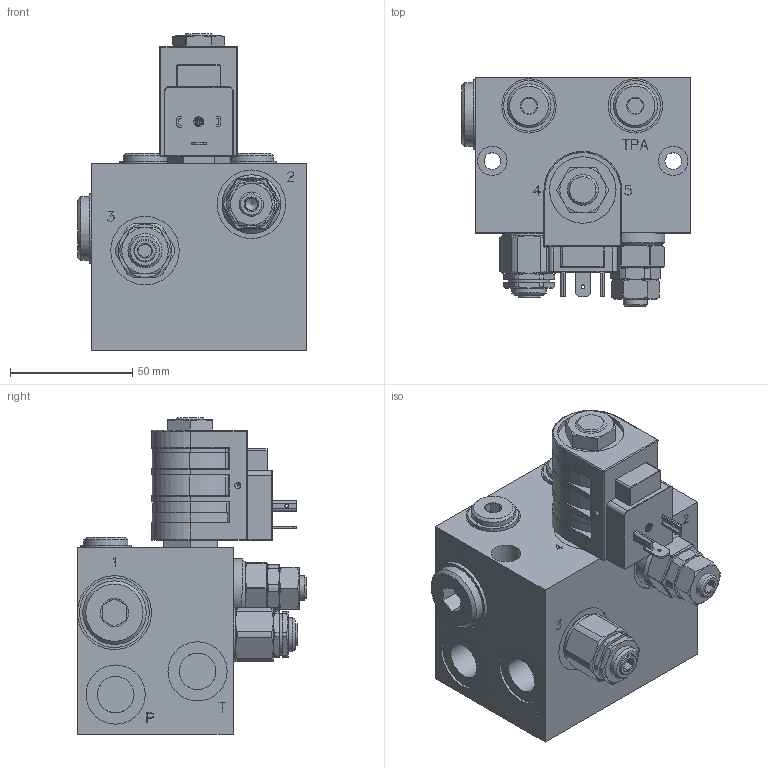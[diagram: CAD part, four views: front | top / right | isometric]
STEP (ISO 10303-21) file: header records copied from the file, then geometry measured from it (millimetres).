
FILE_DESCRIPTION(/* description */ ('Unknown'),/* implementation_level */ '2;1');
FILE_NAME(/* name */ 'RF LB5088',/* time_stamp */ '2022-11-08T15:10:23+00:00',/* author */ ('Unknown'),/* organization */ ('Unknown'),/* preprocessor_version */ 'ST-DEVELOPER v18.1',/* originating_system */ 'Solid Edge',/* authorisation */ 'Unknown');
FILE_SCHEMA (('AUTOMOTIVE_DESIGN {1 0 10303 214 3 1 1}'));
Length unit declared in the file: millimetre
Products named in the file (30): RF 5088_general; M-RF5088X; PT-SLBI014; PT-PLGAH014B; OW-VMD1C3; LCV-VUB1-GO38; LCV-VUB1-GO38_ORing; LCV-VUB1-GO38_Body; LCV-VUB1-GO38_Poppet; V-LFPFIP00P0143; V-LFPFIP00P014_BODY; PT-BAN-038-32-PCFC-002; PT-RC-CI-08.00; LFP-VSC-014-SP-001; D-PBS2A00; PB-S2-body; PB-Nose; PB-CV_POP; PT-OR-3-908-N70A; PT-BK-A-08-012A; PT-OR-2-012-N70A; Delta_1_2_nut1; V-EBNVA100; D-PHC24; PT-EL-HC-TerminalConnectors; PHC_HirschThread; PHC_Disc; PHC_Body; PT-SLBI012; PT-PLGAH012B
Assembly tree (32 placements, depth 3):
  RF 5088_general
    M-RF5088X
    PT-SLBI014  x2
    PT-PLGAH014B  x2
    OW-VMD1C3
    LCV-VUB1-GO38
      LCV-VUB1-GO38_ORing
      LCV-VUB1-GO38_Body
      LCV-VUB1-GO38_Poppet
    V-LFPFIP00P0143
      V-LFPFIP00P014_BODY
      PT-BAN-038-32-PCFC-002
      PT-RC-CI-08.00
      LFP-VSC-014-SP-001
    D-PBS2A00
      PB-S2-body
      PB-Nose
      PB-CV_POP
      PT-OR-3-908-N70A
      PT-BK-A-08-012A
      PT-OR-2-012-N70A
      Delta_1_2_nut1
    V-EBNVA100
    D-PHC24
      PT-EL-HC-TerminalConnectors
      PHC_HirschThread
      PHC_Disc  x2
      PHC_Body
    PT-SLBI012
    PT-PLGAH012B
Bounding box: 93.55 x 93.44 x 129.4 mm (x, y, z)
Volume: 506826 mm3; surface area: 88075.3 mm2
Topology: 33 solids, 34 shells, 1447 faces, 3577 edges, 2290 vertices
Faces by surface type: plane 871, cylinder 282, cone 210, torus 65, bspline 11, sphere 8
Full cylindrical faces by diameter (mm): 0.1 x9, 0.5 x3, 0.8 x1, 0.942 x2, 1 x2, 1.5 x3, 2 x6, 2.297 x2, 2.5 x4, 2.8 x1, 3 x7, 3.5 x3, 4 x3, 4.5 x6, 4.6 x4, 4.7 x2, 5 x1, 5.5 x2, 5.603 x1, 6.31 x1, 6.8 x4, 7 x1, 7.394 x1, 7.4 x1, 7.46 x1, 7.7 x1, 7.993 x3, 8 x2, 8.4 x1, 9 x2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
Entity records: 41207 total; most frequent: CARTESIAN_POINT 10440, ORIENTED_EDGE 6152, DIRECTION 5409, EDGE_CURVE 3076, AXIS2_PLACEMENT_3D 2209, VERTEX_POINT 2154, FACE_BOUND 1932, EDGE_LOOP 1930
